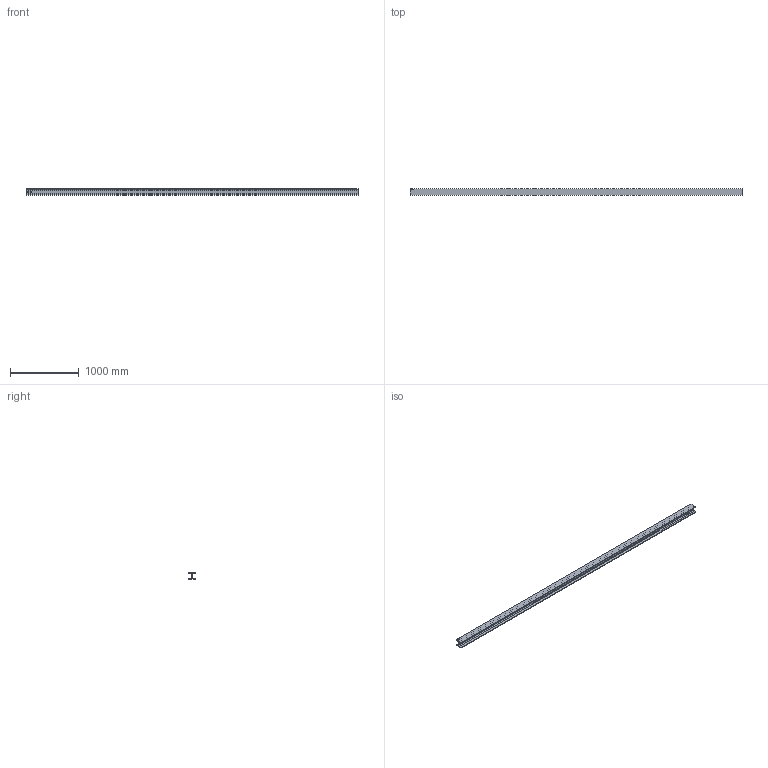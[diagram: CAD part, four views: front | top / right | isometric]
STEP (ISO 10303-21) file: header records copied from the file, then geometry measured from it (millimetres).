
FILE_DESCRIPTION (( 'STEP AP214' ), '1' );
FILE_NAME ('CCJ029-REP.012 - POUTRE A3-A5.STEP', '2024-01-31T08:48:09', ( '' ), ( '' ), 'SwSTEP 2.0', 'SolidWorks 2021', '' );
FILE_SCHEMA (( 'AUTOMOTIVE_DESIGN' ));
Length unit declared in the file: millimetre
Products named in the file (1): CCJ029-REP.012 - POUTRE A3-A5
Bounding box: 4835 x 100 x 100 mm (x, y, z)
Volume: 12586547 mm3; surface area: 2748581.2 mm2
Topology: 1 solids, 1 shells, 53 faces, 141 edges, 94 vertices
Faces by surface type: plane 30, bspline 15, cylinder 8
Entity records: 2759 total; most frequent: CARTESIAN_POINT 1480, ORIENTED_EDGE 282, DIRECTION 205, EDGE_CURVE 141, VECTOR 95, LINE 95, VERTEX_POINT 94, EDGE_LOOP 61
